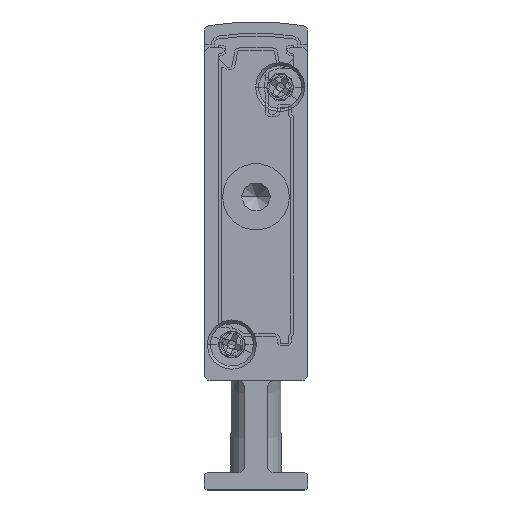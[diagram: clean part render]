
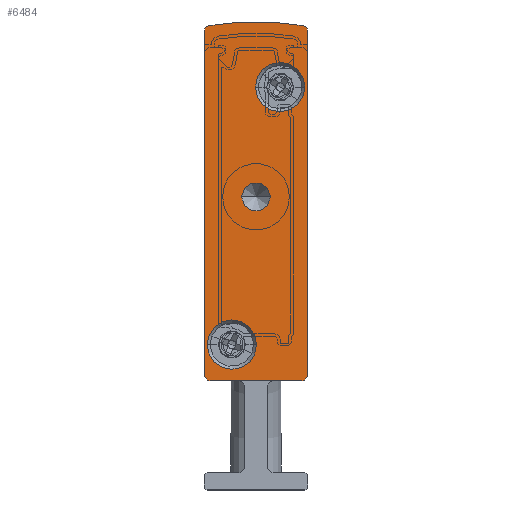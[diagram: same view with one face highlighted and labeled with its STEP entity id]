
A CAD part, front view. The second image highlights one B-rep face of the part: STEP entity #6484.
In plain terms, the highlighted planar face has unit normal (0, -1, 0).
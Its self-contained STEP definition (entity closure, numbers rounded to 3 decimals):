
#31 = AXIS2_PLACEMENT_3D ( 'NONE', #16470, #8726, #19419 ) ;
#66 = DIRECTION ( 'NONE',  ( 0., 1., 0. ) ) ;
#176 = CARTESIAN_POINT ( 'NONE',  ( 8.5, -2.5, 39.902 ) ) ;
#322 = AXIS2_PLACEMENT_3D ( 'NONE', #14241, #12981, #649 ) ;
#547 = VERTEX_POINT ( 'NONE', #10666 ) ;
#649 = DIRECTION ( 'NONE',  ( 1., 0., 0. ) ) ;
#920 = AXIS2_PLACEMENT_3D ( 'NONE', #4553, #6719, #8513 ) ;
#1288 = DIRECTION ( 'NONE',  ( 0., -1., 0. ) ) ;
#1373 = CIRCLE ( 'NONE', #13353, 0.5 ) ;
#1493 = ORIENTED_EDGE ( 'NONE', *, *, #10228, .F. ) ;
#1595 = EDGE_CURVE ( 'NONE', #3398, #14455, #15182, .T. ) ;
#1759 = CIRCLE ( 'NONE', #322, 2.15 ) ;
#1859 = AXIS2_PLACEMENT_3D ( 'NONE', #11534, #11406, #3822 ) ;
#1868 = DIRECTION ( 'NONE',  ( 0., 1., 0. ) ) ;
#1926 = AXIS2_PLACEMENT_3D ( 'NONE', #14010, #1868, #9446 ) ;
#2003 = VERTEX_POINT ( 'NONE', #6858 ) ;
#2137 = VERTEX_POINT ( 'NONE', #4128 ) ;
#2231 = FACE_BOUND ( 'NONE', #14540, .T. ) ;
#2281 = CARTESIAN_POINT ( 'NONE',  ( 8.5, -2.5, 10. ) ) ;
#2301 = CARTESIAN_POINT ( 'NONE',  ( 9., -2.5, 39.902 ) ) ;
#2336 = VERTEX_POINT ( 'NONE', #12316 ) ;
#2340 = EDGE_CURVE ( 'NONE', #2137, #10721, #1373, .T. ) ;
#2578 = CARTESIAN_POINT ( 'NONE',  ( 9., -2.5, 39.902 ) ) ;
#2595 = ORIENTED_EDGE ( 'NONE', *, *, #7848, .T. ) ;
#2822 = VERTEX_POINT ( 'NONE', #16768 ) ;
#3112 = DIRECTION ( 'NONE',  ( -1., 0., 0. ) ) ;
#3179 = DIRECTION ( 'NONE',  ( 0., 1., 0. ) ) ;
#3200 = VERTEX_POINT ( 'NONE', #14671 ) ;
#3398 = VERTEX_POINT ( 'NONE', #6270 ) ;
#3438 = DIRECTION ( 'NONE',  ( -1., 0., 0. ) ) ;
#3548 = ORIENTED_EDGE ( 'NONE', *, *, #15845, .F. ) ;
#3822 = DIRECTION ( 'NONE',  ( 1., 0., 0. ) ) ;
#3975 = ORIENTED_EDGE ( 'NONE', *, *, #4258, .T. ) ;
#4128 = CARTESIAN_POINT ( 'NONE',  ( 8.592, -2.5, 40.393 ) ) ;
#4188 = ORIENTED_EDGE ( 'NONE', *, *, #16315, .F. ) ;
#4258 = EDGE_CURVE ( 'NONE', #547, #4975, #16692, .T. ) ;
#4358 = CARTESIAN_POINT ( 'NONE',  ( 8.75, -2.5, 35.05 ) ) ;
#4363 = FACE_BOUND ( 'NONE', #12997, .T. ) ;
#4524 = AXIS2_PLACEMENT_3D ( 'NONE', #14297, #17360, #3438 ) ;
#4553 = CARTESIAN_POINT ( 'NONE',  ( 2.4, -2.5, 12.65 ) ) ;
#4857 = FACE_OUTER_BOUND ( 'NONE', #14171, .T. ) ;
#4975 = VERTEX_POINT ( 'NONE', #6565 ) ;
#4985 = VECTOR ( 'NONE', #9889, 1000. ) ;
#5137 = EDGE_CURVE ( 'NONE', #2822, #6814, #13571, .T. ) ;
#5332 = DIRECTION ( 'NONE',  ( -1., 0., 0. ) ) ;
#5889 = EDGE_CURVE ( 'NONE', #3200, #2822, #15629, .T. ) ;
#5943 = DIRECTION ( 'NONE',  ( 0., 1., 0. ) ) ;
#6085 = ORIENTED_EDGE ( 'NONE', *, *, #15191, .F. ) ;
#6270 = CARTESIAN_POINT ( 'NONE',  ( 4.55, -2.5, 12.65 ) ) ;
#6419 = CIRCLE ( 'NONE', #8433, 0.5 ) ;
#6479 = PLANE ( 'NONE',  #13146 ) ;
#6484 = ADVANCED_FACE ( 'NONE', ( #2231, #17005, #4857, #4363 ), #6479, .F. ) ;
#6565 = CARTESIAN_POINT ( 'NONE',  ( 3.25, -2.5, 25.5 ) ) ;
#6717 = CARTESIAN_POINT ( 'NONE',  ( 9., -2.5, 10. ) ) ;
#6719 = DIRECTION ( 'NONE',  ( 0., -1., 0. ) ) ;
#6814 = VERTEX_POINT ( 'NONE', #16600 ) ;
#6858 = CARTESIAN_POINT ( 'NONE',  ( 4.45, -2.5, 35.05 ) ) ;
#7029 = CARTESIAN_POINT ( 'NONE',  ( 0.25, -2.5, 12.65 ) ) ;
#7076 = DIRECTION ( 'NONE',  ( 1., 0., 0. ) ) ;
#7337 = DIRECTION ( 'NONE',  ( -1., 0., 0. ) ) ;
#7360 = CIRCLE ( 'NONE', #31, 1.25 ) ;
#7447 = VERTEX_POINT ( 'NONE', #4358 ) ;
#7491 = CIRCLE ( 'NONE', #10758, 2.15 ) ;
#7848 = EDGE_CURVE ( 'NONE', #4975, #547, #7360, .T. ) ;
#8282 = CARTESIAN_POINT ( 'NONE',  ( 0., -2.5, 39.902 ) ) ;
#8433 = AXIS2_PLACEMENT_3D ( 'NONE', #2281, #11443, #5332 ) ;
#8513 = DIRECTION ( 'NONE',  ( 1., 0., 0. ) ) ;
#8559 = ORIENTED_EDGE ( 'NONE', *, *, #13042, .F. ) ;
#8666 = ORIENTED_EDGE ( 'NONE', *, *, #10867, .F. ) ;
#8726 = DIRECTION ( 'NONE',  ( 0., 1., 0. ) ) ;
#9134 = VECTOR ( 'NONE', #11901, 1000. ) ;
#9446 = DIRECTION ( 'NONE',  ( -1., 0., 0. ) ) ;
#9534 = ORIENTED_EDGE ( 'NONE', *, *, #1595, .F. ) ;
#9826 = AXIS2_PLACEMENT_3D ( 'NONE', #10652, #66, #12398 ) ;
#9889 = DIRECTION ( 'NONE',  ( 0., 0., 1. ) ) ;
#10169 = EDGE_CURVE ( 'NONE', #6814, #15488, #11180, .T. ) ;
#10228 = EDGE_CURVE ( 'NONE', #11734, #2336, #6419, .T. ) ;
#10357 = DIRECTION ( 'NONE',  ( -1., 0., 0. ) ) ;
#10433 = CARTESIAN_POINT ( 'NONE',  ( 0.408, -2.5, 40.393 ) ) ;
#10652 = CARTESIAN_POINT ( 'NONE',  ( 4.5, -2.5, 25.5 ) ) ;
#10666 = CARTESIAN_POINT ( 'NONE',  ( 5.75, -2.5, 25.5 ) ) ;
#10721 = VERTEX_POINT ( 'NONE', #2301 ) ;
#10758 = AXIS2_PLACEMENT_3D ( 'NONE', #11959, #1288, #7076 ) ;
#10867 = EDGE_CURVE ( 'NONE', #2336, #3200, #17827, .T. ) ;
#11180 = CIRCLE ( 'NONE', #1926, 0.5 ) ;
#11273 = LINE ( 'NONE', #2578, #9134 ) ;
#11406 = DIRECTION ( 'NONE',  ( 0., -1., 0. ) ) ;
#11443 = DIRECTION ( 'NONE',  ( 0., 1., 0. ) ) ;
#11534 = CARTESIAN_POINT ( 'NONE',  ( 6.6, -2.5, 35.05 ) ) ;
#11734 = VERTEX_POINT ( 'NONE', #6717 ) ;
#11901 = DIRECTION ( 'NONE',  ( 0., 0., -1. ) ) ;
#11959 = CARTESIAN_POINT ( 'NONE',  ( 6.6, -2.5, 35.05 ) ) ;
#12008 = CARTESIAN_POINT ( 'NONE',  ( 4.5, -2.5, 17.092 ) ) ;
#12244 = CIRCLE ( 'NONE', #1859, 2.15 ) ;
#12316 = CARTESIAN_POINT ( 'NONE',  ( 8.5, -2.5, 9.5 ) ) ;
#12398 = DIRECTION ( 'NONE',  ( -1., 0., 0. ) ) ;
#12684 = CARTESIAN_POINT ( 'NONE',  ( 0.5, -2.5, 39.902 ) ) ;
#12981 = DIRECTION ( 'NONE',  ( 0., -1., 0. ) ) ;
#12995 = AXIS2_PLACEMENT_3D ( 'NONE', #12008, #5943, #7337 ) ;
#12997 = EDGE_LOOP ( 'NONE', ( #2595, #3975 ) ) ;
#13040 = ORIENTED_EDGE ( 'NONE', *, *, #19307, .F. ) ;
#13042 = EDGE_CURVE ( 'NONE', #10721, #11734, #11273, .T. ) ;
#13146 = AXIS2_PLACEMENT_3D ( 'NONE', #12684, #17530, #18969 ) ;
#13353 = AXIS2_PLACEMENT_3D ( 'NONE', #176, #3179, #3112 ) ;
#13571 = LINE ( 'NONE', #8282, #4985 ) ;
#13878 = ORIENTED_EDGE ( 'NONE', *, *, #2340, .F. ) ;
#14010 = CARTESIAN_POINT ( 'NONE',  ( 0.5, -2.5, 39.902 ) ) ;
#14171 = EDGE_LOOP ( 'NONE', ( #16714, #14274, #17320, #8666, #1493, #8559, #13878, #4188 ) ) ;
#14241 = CARTESIAN_POINT ( 'NONE',  ( 2.4, -2.5, 12.65 ) ) ;
#14274 = ORIENTED_EDGE ( 'NONE', *, *, #5137, .F. ) ;
#14297 = CARTESIAN_POINT ( 'NONE',  ( 0.5, -2.5, 10. ) ) ;
#14455 = VERTEX_POINT ( 'NONE', #7029 ) ;
#14540 = EDGE_LOOP ( 'NONE', ( #3548, #13040 ) ) ;
#14671 = CARTESIAN_POINT ( 'NONE',  ( 0.5, -2.5, 9.5 ) ) ;
#14957 = EDGE_LOOP ( 'NONE', ( #9534, #6085 ) ) ;
#15182 = CIRCLE ( 'NONE', #920, 2.15 ) ;
#15191 = EDGE_CURVE ( 'NONE', #14455, #3398, #1759, .T. ) ;
#15201 = VECTOR ( 'NONE', #10357, 1000. ) ;
#15488 = VERTEX_POINT ( 'NONE', #10433 ) ;
#15629 = CIRCLE ( 'NONE', #4524, 0.5 ) ;
#15845 = EDGE_CURVE ( 'NONE', #7447, #2003, #12244, .T. ) ;
#16315 = EDGE_CURVE ( 'NONE', #15488, #2137, #16748, .T. ) ;
#16470 = CARTESIAN_POINT ( 'NONE',  ( 4.5, -2.5, 25.5 ) ) ;
#16600 = CARTESIAN_POINT ( 'NONE',  ( 0., -2.5, 39.902 ) ) ;
#16692 = CIRCLE ( 'NONE', #9826, 1.25 ) ;
#16714 = ORIENTED_EDGE ( 'NONE', *, *, #10169, .F. ) ;
#16748 = CIRCLE ( 'NONE', #12995, 23.658 ) ;
#16768 = CARTESIAN_POINT ( 'NONE',  ( 0., -2.5, 10. ) ) ;
#17005 = FACE_BOUND ( 'NONE', #14957, .T. ) ;
#17320 = ORIENTED_EDGE ( 'NONE', *, *, #5889, .F. ) ;
#17360 = DIRECTION ( 'NONE',  ( 0., 1., 0. ) ) ;
#17530 = DIRECTION ( 'NONE',  ( 0., 1., 0. ) ) ;
#17827 = LINE ( 'NONE', #19366, #15201 ) ;
#18969 = DIRECTION ( 'NONE',  ( -1., 0., 0. ) ) ;
#19307 = EDGE_CURVE ( 'NONE', #2003, #7447, #7491, .T. ) ;
#19366 = CARTESIAN_POINT ( 'NONE',  ( 0.5, -2.5, 9.5 ) ) ;
#19419 = DIRECTION ( 'NONE',  ( -1., 0., 0. ) ) ;
